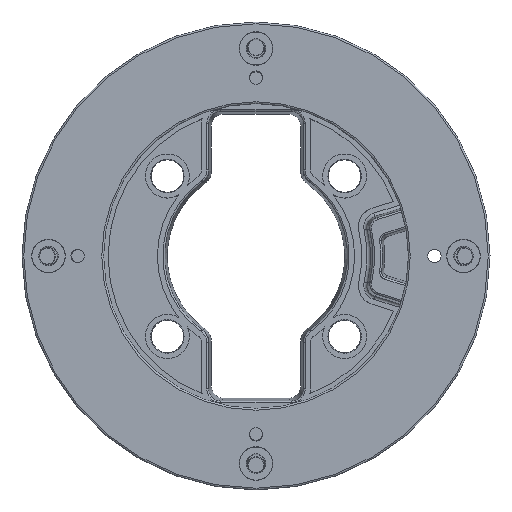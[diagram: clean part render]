
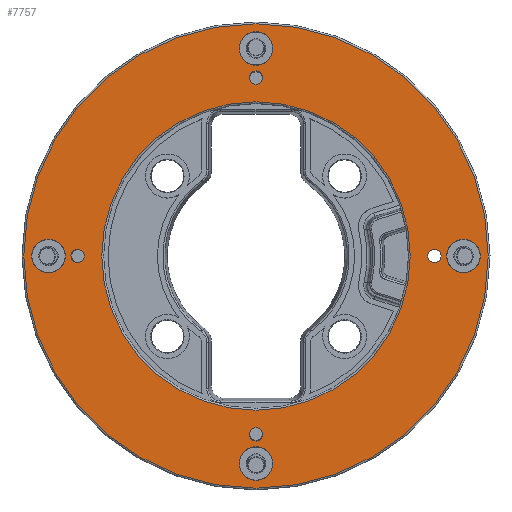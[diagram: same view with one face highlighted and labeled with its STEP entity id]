
A CAD part, top view. The second image highlights one B-rep face of the part: STEP entity #7757.
In plain terms, the highlighted planar face has unit normal (0, 0, 1).
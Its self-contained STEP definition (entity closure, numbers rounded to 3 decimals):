
#7757=ADVANCED_FACE('',(#8172,#8173,#8174,#8175,#8176,#8177,#8178,#8179,
#8180,#8181),#7994,.F.);
#7994=PLANE('',#18270);
#8172=FACE_BOUND('',#8974,.T.);
#8173=FACE_BOUND('',#8975,.T.);
#8174=FACE_BOUND('',#8976,.T.);
#8175=FACE_BOUND('',#8977,.T.);
#8176=FACE_BOUND('',#8978,.T.);
#8177=FACE_BOUND('',#8979,.T.);
#8178=FACE_BOUND('',#8980,.T.);
#8179=FACE_BOUND('',#8981,.T.);
#8180=FACE_BOUND('',#8982,.T.);
#8181=FACE_BOUND('',#8983,.T.);
#8974=EDGE_LOOP('',(#13213));
#8975=EDGE_LOOP('',(#13214));
#8976=EDGE_LOOP('',(#13215));
#8977=EDGE_LOOP('',(#13216));
#8978=EDGE_LOOP('',(#13217));
#8979=EDGE_LOOP('',(#13218));
#8980=EDGE_LOOP('',(#13219));
#8981=EDGE_LOOP('',(#13220));
#8982=EDGE_LOOP('',(#13221));
#8983=EDGE_LOOP('',(#13222));
#13213=ORIENTED_EDGE('',*,*,#16225,.T.);
#13214=ORIENTED_EDGE('',*,*,#16226,.F.);
#13215=ORIENTED_EDGE('',*,*,#16227,.T.);
#13216=ORIENTED_EDGE('',*,*,#16228,.T.);
#13217=ORIENTED_EDGE('',*,*,#16229,.T.);
#13218=ORIENTED_EDGE('',*,*,#16230,.F.);
#13219=ORIENTED_EDGE('',*,*,#16231,.T.);
#13220=ORIENTED_EDGE('',*,*,#16232,.F.);
#13221=ORIENTED_EDGE('',*,*,#16233,.F.);
#13222=ORIENTED_EDGE('',*,*,#16234,.T.);
#14594=VERTEX_POINT('',#31528);
#14595=VERTEX_POINT('',#31530);
#14596=VERTEX_POINT('',#31532);
#14597=VERTEX_POINT('',#31534);
#14598=VERTEX_POINT('',#31536);
#14599=VERTEX_POINT('',#31538);
#14600=VERTEX_POINT('',#31540);
#14601=VERTEX_POINT('',#31542);
#14602=VERTEX_POINT('',#31544);
#14603=VERTEX_POINT('',#31546);
#16225=EDGE_CURVE('',#14594,#14594,#17060,.T.);
#16226=EDGE_CURVE('',#14595,#14595,#17061,.T.);
#16227=EDGE_CURVE('',#14596,#14596,#17062,.T.);
#16228=EDGE_CURVE('',#14597,#14597,#17063,.T.);
#16229=EDGE_CURVE('',#14598,#14598,#17064,.T.);
#16230=EDGE_CURVE('',#14599,#14599,#17065,.T.);
#16231=EDGE_CURVE('',#14600,#14600,#17066,.T.);
#16232=EDGE_CURVE('',#14601,#14601,#17067,.T.);
#16233=EDGE_CURVE('',#14602,#14602,#17068,.T.);
#16234=EDGE_CURVE('',#14603,#14603,#17069,.T.);
#17060=CIRCLE('',#18260,4.759);
#17061=CIRCLE('',#18261,1.878);
#17062=CIRCLE('',#18262,43.4);
#17063=CIRCLE('',#18263,65.352);
#17064=CIRCLE('',#18264,1.878);
#17065=CIRCLE('',#18265,4.759);
#17066=CIRCLE('',#18266,4.759);
#17067=CIRCLE('',#18267,1.878);
#17068=CIRCLE('',#18268,4.759);
#17069=CIRCLE('',#18269,1.878);
#18260=AXIS2_PLACEMENT_3D('',#31527,#20911,#20912);
#18261=AXIS2_PLACEMENT_3D('',#31529,#20913,#20914);
#18262=AXIS2_PLACEMENT_3D('',#31531,#20915,#20916);
#18263=AXIS2_PLACEMENT_3D('',#31533,#20917,#20918);
#18264=AXIS2_PLACEMENT_3D('',#31535,#20919,#20920);
#18265=AXIS2_PLACEMENT_3D('',#31537,#20921,#20922);
#18266=AXIS2_PLACEMENT_3D('',#31539,#20923,#20924);
#18267=AXIS2_PLACEMENT_3D('',#31541,#20925,#20926);
#18268=AXIS2_PLACEMENT_3D('',#31543,#20927,#20928);
#18269=AXIS2_PLACEMENT_3D('',#31545,#20929,#20930);
#18270=AXIS2_PLACEMENT_3D('',#31547,#20931,#20932);
#20911=DIRECTION('',(0.,0.,-1.));
#20912=DIRECTION('',(-1.,0.,0.));
#20913=DIRECTION('',(0.,0.,1.));
#20914=DIRECTION('',(-1.,0.,0.));
#20915=DIRECTION('',(0.,0.,-1.));
#20916=DIRECTION('',(-1.,0.,0.));
#20917=DIRECTION('',(0.,0.,1.));
#20918=DIRECTION('',(-1.,0.,0.));
#20919=DIRECTION('',(0.,0.,-1.));
#20920=DIRECTION('',(-1.,0.,0.));
#20921=DIRECTION('',(0.,0.,1.));
#20922=DIRECTION('',(-1.,0.,0.));
#20923=DIRECTION('',(0.,0.,-1.));
#20924=DIRECTION('',(-1.,0.,0.));
#20925=DIRECTION('',(0.,0.,1.));
#20926=DIRECTION('',(-1.,0.,0.));
#20927=DIRECTION('',(0.,0.,1.));
#20928=DIRECTION('',(-1.,0.,0.));
#20929=DIRECTION('',(0.,0.,-1.));
#20930=DIRECTION('',(-1.,0.,0.));
#20931=DIRECTION('',(0.,0.,-1.));
#20932=DIRECTION('',(-1.,0.,0.));
#31527=CARTESIAN_POINT('',(425.031,1981.636,-29.352));
#31528=CARTESIAN_POINT('',(429.79,1981.636,-29.352));
#31529=CARTESIAN_POINT('',(425.031,1989.836,-29.352));
#31530=CARTESIAN_POINT('',(423.153,1989.836,-29.352));
#31531=CARTESIAN_POINT('',(425.031,2040.036,-29.352));
#31532=CARTESIAN_POINT('',(468.431,2040.036,-29.352));
#31533=CARTESIAN_POINT('',(425.031,2040.036,-29.352));
#31534=CARTESIAN_POINT('',(490.383,2040.036,-29.352));
#31535=CARTESIAN_POINT('',(425.031,2090.236,-29.352));
#31536=CARTESIAN_POINT('',(423.153,2090.236,-29.352));
#31537=CARTESIAN_POINT('',(425.031,2098.436,-29.352));
#31538=CARTESIAN_POINT('',(429.79,2098.436,-29.352));
#31539=CARTESIAN_POINT('',(366.631,2040.036,-29.352));
#31540=CARTESIAN_POINT('',(371.39,2040.036,-29.352));
#31541=CARTESIAN_POINT('',(374.831,2040.036,-29.352));
#31542=CARTESIAN_POINT('',(372.953,2040.036,-29.352));
#31543=CARTESIAN_POINT('',(483.431,2040.036,-29.352));
#31544=CARTESIAN_POINT('',(478.673,2040.036,-29.352));
#31545=CARTESIAN_POINT('',(475.231,2040.036,-29.352));
#31546=CARTESIAN_POINT('',(473.353,2040.036,-29.352));
#31547=CARTESIAN_POINT('',(425.031,2040.036,-29.352));
